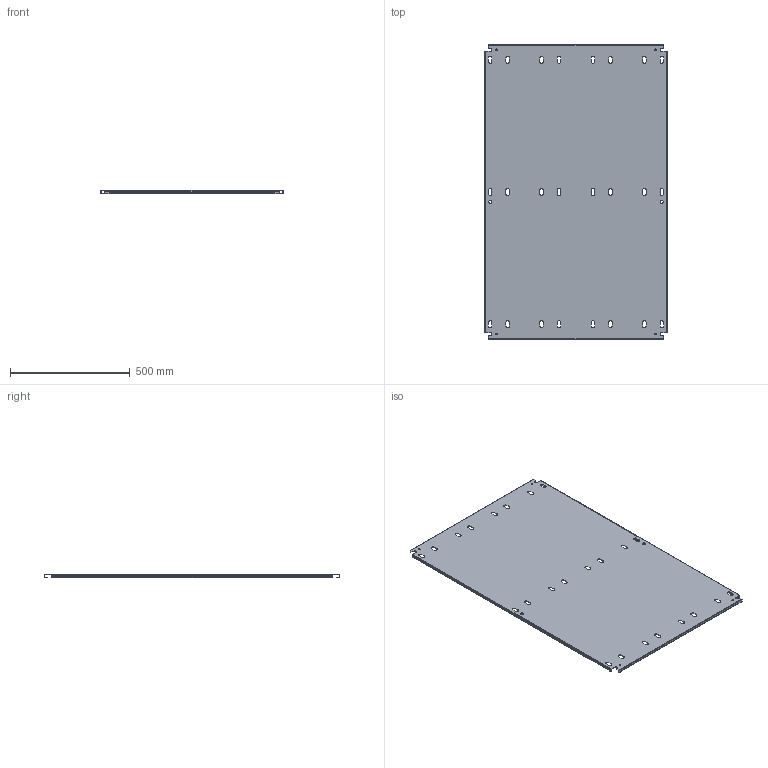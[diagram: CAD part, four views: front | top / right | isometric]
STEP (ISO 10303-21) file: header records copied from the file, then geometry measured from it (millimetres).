
FILE_DESCRIPTION(/* description */ ('1412BTSSCU 29.975" x 48.5" Right Inner Panel'),/* implementation_level */ '2;1');
FILE_NAME(/* name */ 'C:\Vault_Workspace\Inventor_Dwg\BoxCad\Result\1412BTSSCU112504\e-mail\3D\1412BTSSCU112504IP2.stp',/* time_stamp */ '2022-09-22T18:36:27-04:00',/* author */ ('BoxCad'),/* organization */ (''),/* preprocessor_version */ 'ST-DEVELOPER v18.1',/* originating_system */ 'Autodesk Inventor 2020',/* authorisation */ '');
FILE_SCHEMA (('AUTOMOTIVE_DESIGN { 1 0 10303 214 3 1 1 }'));
Length unit declared in the file: inch
Products named in the file (2): 1412BTSSCU112504IP2; 1412BTSSCU112504IP2-P
Assembly tree (1 placements, depth 2):
  1412BTSSCU112504IP2
    1412BTSSCU112504IP2-P
Bounding box: 761.37 x 1231.9 x 13 mm (x, y, z)
Volume: 1720616.2 mm3; surface area: 2003132.4 mm2
Topology: 1 solids, 1 shells, 216 faces, 642 edges, 428 vertices
Faces by surface type: plane 118, cylinder 98
Full cylindrical faces by diameter (mm): 7.366 x4, 12.7 x2
Entity records: 7471 total; most frequent: CARTESIAN_POINT 1289, ORIENTED_EDGE 1284, DIRECTION 1276, EDGE_CURVE 642, LINE 446, VECTOR 446, VERTEX_POINT 428, AXIS2_PLACEMENT_3D 415
